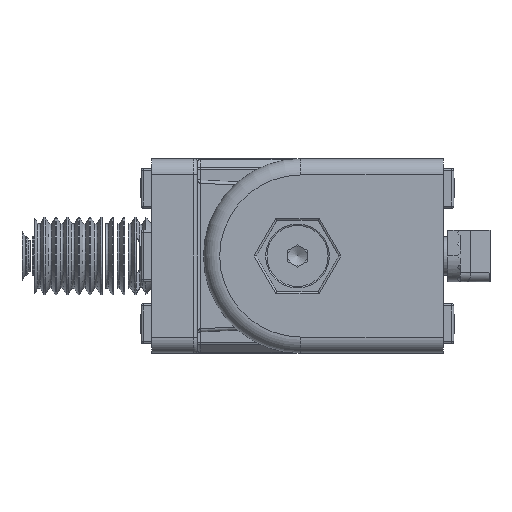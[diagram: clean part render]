
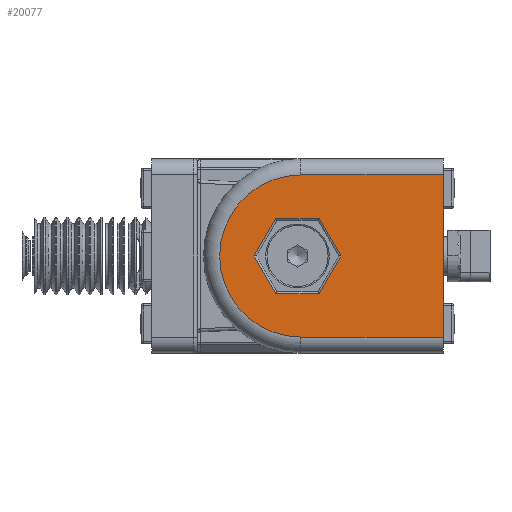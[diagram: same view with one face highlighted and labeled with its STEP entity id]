
A CAD part, left-side view. The second image highlights one B-rep face of the part: STEP entity #20077.
In plain terms, the highlighted planar face has unit normal (-1, 0, 0).
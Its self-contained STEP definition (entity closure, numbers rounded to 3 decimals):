
#623=FACE_BOUND('',#2392,.T.);
#760=PLANE('',#21175);
#1411=FACE_OUTER_BOUND('',#2391,.T.);
#2391=EDGE_LOOP('',(#14805,#14806,#14807,#14808));
#2392=EDGE_LOOP('',(#14809,#14810,#14811,#14812,#14813,#14814));
#3508=LINE('',#29935,#5847);
#3509=LINE('',#29940,#5848);
#3510=LINE('',#29944,#5849);
#3511=LINE('',#29948,#5850);
#3512=LINE('',#29952,#5851);
#3513=LINE('',#29954,#5852);
#3514=LINE('',#29958,#5853);
#3515=LINE('',#29960,#5854);
#3516=LINE('',#29963,#5855);
#5847=VECTOR('',#23158,1000.);
#5848=VECTOR('',#23165,1000.);
#5849=VECTOR('',#23170,1000.);
#5850=VECTOR('',#23175,1000.);
#5851=VECTOR('',#23180,1000.);
#5852=VECTOR('',#23183,1000.);
#5853=VECTOR('',#23186,1000.);
#5854=VECTOR('',#23187,1000.);
#5855=VECTOR('',#23190,1000.);
#8141=CIRCLE('',#21176,12.5);
#8979=VERTEX_POINT('',#29932);
#8980=VERTEX_POINT('',#29934);
#8981=VERTEX_POINT('',#29938);
#8982=VERTEX_POINT('',#29942);
#8983=VERTEX_POINT('',#29946);
#8984=VERTEX_POINT('',#29950);
#8985=VERTEX_POINT('',#29956);
#8986=VERTEX_POINT('',#29957);
#8987=VERTEX_POINT('',#29959);
#8988=VERTEX_POINT('',#29961);
#11340=EDGE_CURVE('',#8980,#8979,#3508,.T.);
#11343=EDGE_CURVE('',#8979,#8981,#3509,.T.);
#11345=EDGE_CURVE('',#8981,#8982,#3510,.T.);
#11347=EDGE_CURVE('',#8982,#8983,#3511,.T.);
#11349=EDGE_CURVE('',#8983,#8984,#3512,.T.);
#11350=EDGE_CURVE('',#8984,#8980,#3513,.T.);
#11351=EDGE_CURVE('',#8985,#8986,#3514,.T.);
#11352=EDGE_CURVE('',#8985,#8987,#3515,.T.);
#11353=EDGE_CURVE('',#8987,#8988,#8141,.T.);
#11354=EDGE_CURVE('',#8988,#8986,#3516,.T.);
#14805=ORIENTED_EDGE('',*,*,#11351,.F.);
#14806=ORIENTED_EDGE('',*,*,#11352,.T.);
#14807=ORIENTED_EDGE('',*,*,#11353,.T.);
#14808=ORIENTED_EDGE('',*,*,#11354,.T.);
#14809=ORIENTED_EDGE('',*,*,#11350,.T.);
#14810=ORIENTED_EDGE('',*,*,#11340,.T.);
#14811=ORIENTED_EDGE('',*,*,#11343,.T.);
#14812=ORIENTED_EDGE('',*,*,#11345,.T.);
#14813=ORIENTED_EDGE('',*,*,#11347,.T.);
#14814=ORIENTED_EDGE('',*,*,#11349,.T.);
#20077=ADVANCED_FACE('',(#1411,#623),#760,.F.);
#21175=AXIS2_PLACEMENT_3D('',#29955,#23184,#23185);
#21176=AXIS2_PLACEMENT_3D('',#29962,#23188,#23189);
#23158=DIRECTION('',(0.,-0.5,0.866));
#23165=DIRECTION('',(0.,-1.,0.));
#23170=DIRECTION('',(0.,-0.5,-0.866));
#23175=DIRECTION('',(0.,0.5,-0.866));
#23180=DIRECTION('',(0.,1.,0.));
#23183=DIRECTION('',(0.,0.5,0.866));
#23184=DIRECTION('center_axis',(1.,0.,0.));
#23185=DIRECTION('ref_axis',(0.,0.,-1.));
#23186=DIRECTION('',(0.,0.,-1.));
#23187=DIRECTION('',(0.,1.,0.));
#23188=DIRECTION('center_axis',(-1.,0.,0.));
#23189=DIRECTION('ref_axis',(0.,0.,-1.));
#23190=DIRECTION('',(0.,-1.,0.));
#29932=CARTESIAN_POINT('',(-20.412,8.371,7.961));
#29934=CARTESIAN_POINT('',(-20.412,11.72,2.161));
#29935=CARTESIAN_POINT('',(-20.412,-0.325,23.023));
#29938=CARTESIAN_POINT('',(-20.412,1.674,7.961));
#29940=CARTESIAN_POINT('',(-20.412,-10.477,7.961));
#29942=CARTESIAN_POINT('',(-20.412,-1.675,2.161));
#29944=CARTESIAN_POINT('',(-20.412,2.62,9.599));
#29946=CARTESIAN_POINT('',(-20.412,1.674,-3.639));
#29948=CARTESIAN_POINT('',(-20.412,-10.371,17.223));
#29950=CARTESIAN_POINT('',(-20.412,8.371,-3.639));
#29952=CARTESIAN_POINT('',(-20.412,-10.477,-3.639));
#29954=CARTESIAN_POINT('',(-20.412,12.666,3.799));
#29955=CARTESIAN_POINT('Origin',(-20.412,-10.477,17.161));
#29956=CARTESIAN_POINT('',(-20.412,-17.477,14.661));
#29957=CARTESIAN_POINT('',(-20.412,-17.477,-10.339));
#29958=CARTESIAN_POINT('',(-20.412,-17.477,17.161));
#29959=CARTESIAN_POINT('',(-20.412,4.523,14.661));
#29960=CARTESIAN_POINT('',(-20.412,-10.477,14.661));
#29961=CARTESIAN_POINT('',(-20.412,4.523,-10.339));
#29962=CARTESIAN_POINT('Origin',(-20.412,4.523,2.161));
#29963=CARTESIAN_POINT('',(-20.412,-17.477,-10.339));
